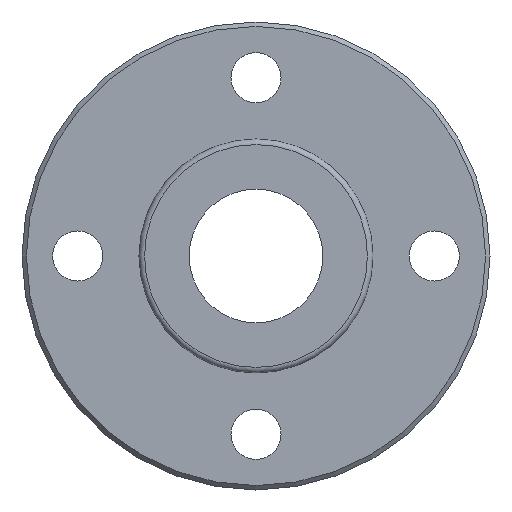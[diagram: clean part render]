
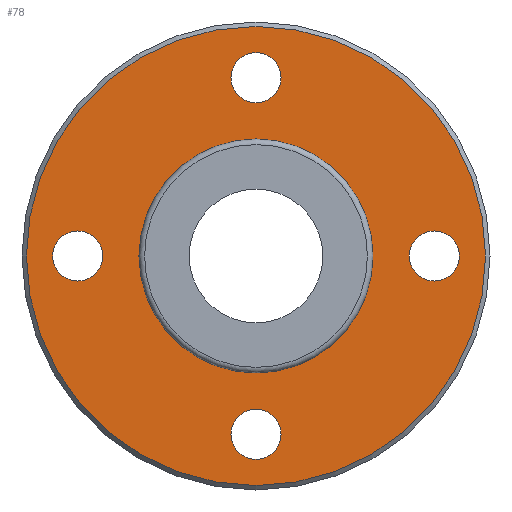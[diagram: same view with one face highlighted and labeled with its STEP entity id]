
A CAD part, left-side view. The second image highlights one B-rep face of the part: STEP entity #78.
In plain terms, the highlighted planar face has unit normal (-1, 0, 0).
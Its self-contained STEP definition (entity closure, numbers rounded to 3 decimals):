
#78=ADVANCED_FACE('',(#113,#114,#115,#116,#117,#118),#119,.T.);
#113=FACE_OUTER_BOUND('',#205,.T.);
#114=FACE_BOUND('',#206,.T.);
#115=FACE_BOUND('',#207,.T.);
#116=FACE_BOUND('',#208,.T.);
#117=FACE_BOUND('',#209,.T.);
#118=FACE_BOUND('',#210,.T.);
#119=PLANE('',#211);
#205=EDGE_LOOP('',(#303));
#206=EDGE_LOOP('',(#304));
#207=EDGE_LOOP('',(#305));
#208=EDGE_LOOP('',(#306));
#209=EDGE_LOOP('',(#307));
#210=EDGE_LOOP('',(#308));
#211=AXIS2_PLACEMENT_3D('',#309,#310,#311);
#303=ORIENTED_EDGE('',*,*,#441,.T.);
#304=ORIENTED_EDGE('',*,*,#442,.F.);
#305=ORIENTED_EDGE('',*,*,#443,.T.);
#306=ORIENTED_EDGE('',*,*,#444,.T.);
#307=ORIENTED_EDGE('',*,*,#445,.T.);
#308=ORIENTED_EDGE('',*,*,#446,.T.);
#309=CARTESIAN_POINT('',(-6.0,15.375,0.0));
#310=DIRECTION('',(-1.0,0.0,0.));
#311=DIRECTION('',(0.,0.0,1.0));
#441=EDGE_CURVE('',#478,#478,#479,.T.);
#442=EDGE_CURVE('',#480,#480,#481,.T.);
#443=EDGE_CURVE('',#482,#482,#483,.T.);
#444=EDGE_CURVE('',#484,#484,#485,.T.);
#445=EDGE_CURVE('',#486,#486,#487,.T.);
#446=EDGE_CURVE('',#488,#488,#489,.T.);
#478=VERTEX_POINT('',#542);
#479=CIRCLE('',#543,20.6);
#480=VERTEX_POINT('',#544);
#481=CIRCLE('',#545,10.15);
#482=VERTEX_POINT('',#546);
#483=CIRCLE('',#547,2.25);
#484=VERTEX_POINT('',#548);
#485=CIRCLE('',#549,2.25);
#486=VERTEX_POINT('',#550);
#487=CIRCLE('',#551,2.25);
#488=VERTEX_POINT('',#552);
#489=CIRCLE('',#553,2.25);
#542=CARTESIAN_POINT('',(-6.0,20.6,0.0));
#543=AXIS2_PLACEMENT_3D('',#611,#612,#613);
#544=CARTESIAN_POINT('',(-6.0,10.15,0.0));
#545=AXIS2_PLACEMENT_3D('',#614,#615,#616);
#546=CARTESIAN_POINT('',(-6.0,16.0,2.25));
#547=AXIS2_PLACEMENT_3D('',#617,#618,#619);
#548=CARTESIAN_POINT('',(-6.0,0.0,-13.75));
#549=AXIS2_PLACEMENT_3D('',#620,#621,#622);
#550=CARTESIAN_POINT('',(-6.0,-16.0,2.25));
#551=AXIS2_PLACEMENT_3D('',#623,#624,#625);
#552=CARTESIAN_POINT('',(-6.0,0.0,18.25));
#553=AXIS2_PLACEMENT_3D('',#626,#627,#628);
#611=CARTESIAN_POINT('',(-6.0,0.0,0.0));
#612=DIRECTION('',(-1.0,0.0,0.));
#613=DIRECTION('',(0.0,1.0,0.0));
#614=CARTESIAN_POINT('',(-6.0,0.0,0.0));
#615=DIRECTION('',(-1.0,0.0,0.));
#616=DIRECTION('',(0.0,1.0,0.0));
#617=CARTESIAN_POINT('',(-6.0,16.0,0.));
#618=DIRECTION('',(1.0,0.0,0.));
#619=DIRECTION('',(0.,0.0,-1.0));
#620=CARTESIAN_POINT('',(-6.0,0.0,-16.0));
#621=DIRECTION('',(1.0,0.0,0.));
#622=DIRECTION('',(0.,0.0,-1.0));
#623=CARTESIAN_POINT('',(-6.0,-16.0,0.));
#624=DIRECTION('',(1.0,0.0,0.));
#625=DIRECTION('',(0.,0.0,-1.0));
#626=CARTESIAN_POINT('',(-6.0,0.0,16.0));
#627=DIRECTION('',(1.0,0.0,0.));
#628=DIRECTION('',(0.,0.0,-1.0));
